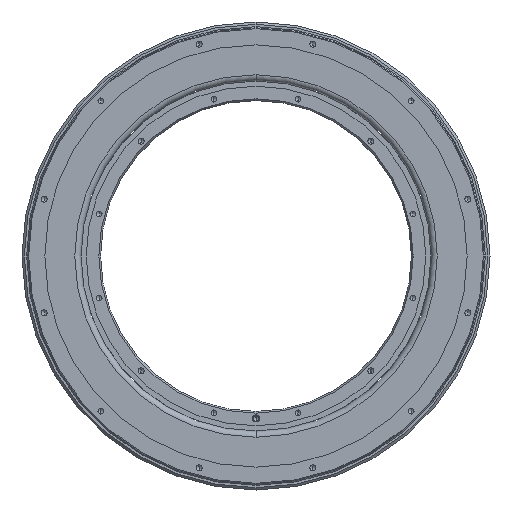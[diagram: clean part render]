
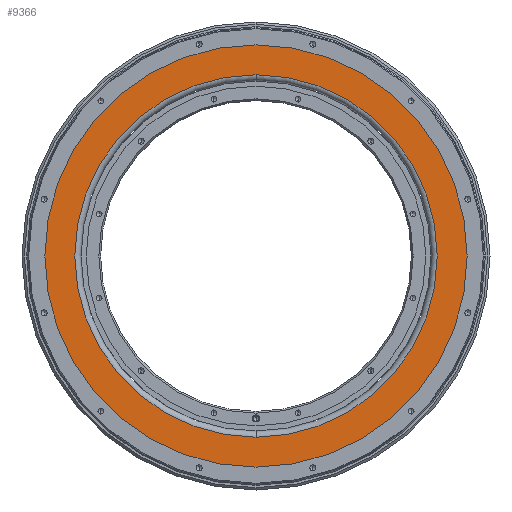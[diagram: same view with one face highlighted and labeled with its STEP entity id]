
A CAD part, front view. The second image highlights one B-rep face of the part: STEP entity #9366.
In plain terms, the highlighted planar face has unit normal (0, -1, 0).
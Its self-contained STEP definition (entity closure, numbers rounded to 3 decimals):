
#32 = FACE_BOUND ( 'NONE', #2355, .T. ) ;
#69 = DIRECTION ( 'NONE',  ( 0., 0., 1. ) ) ;
#97 = AXIS2_PLACEMENT_3D ( 'NONE', #2013, #5652, #3499 ) ;
#119 = DIRECTION ( 'NONE',  ( 0., 1., 0. ) ) ;
#231 = CIRCLE ( 'NONE', #2275, 180. ) ;
#442 = VERTEX_POINT ( 'NONE', #6581 ) ;
#489 = CIRCLE ( 'NONE', #7343, 154.5 ) ;
#635 = CIRCLE ( 'NONE', #9168, 154.5 ) ;
#1372 = EDGE_CURVE ( 'NONE', #4387, #7944, #231, .T. ) ;
#1532 = PLANE ( 'NONE',  #9066 ) ;
#2013 = CARTESIAN_POINT ( 'NONE',  ( 0., 3., 0. ) ) ;
#2275 = AXIS2_PLACEMENT_3D ( 'NONE', #5004, #6399, #7914 ) ;
#2355 = EDGE_LOOP ( 'NONE', ( #5027, #6751 ) ) ;
#2680 = EDGE_CURVE ( 'NONE', #7756, #442, #489, .T. ) ;
#3499 = DIRECTION ( 'NONE',  ( 0., 0., -1. ) ) ;
#3739 = DIRECTION ( 'NONE',  ( 0., 1., 0. ) ) ;
#3807 = CARTESIAN_POINT ( 'NONE',  ( -180., 3., 0. ) ) ;
#4357 = FACE_OUTER_BOUND ( 'NONE', #8912, .T. ) ;
#4387 = VERTEX_POINT ( 'NONE', #6629 ) ;
#4505 = DIRECTION ( 'NONE',  ( 0., 0., 1. ) ) ;
#4682 = CIRCLE ( 'NONE', #97, 180. ) ;
#4870 = CARTESIAN_POINT ( 'NONE',  ( 0., 3., -180. ) ) ;
#5004 = CARTESIAN_POINT ( 'NONE',  ( 0., 3., 0. ) ) ;
#5027 = ORIENTED_EDGE ( 'NONE', *, *, #7056, .T. ) ;
#5108 = CARTESIAN_POINT ( 'NONE',  ( 0., 3., 0. ) ) ;
#5318 = DIRECTION ( 'NONE',  ( 0., 0., 1. ) ) ;
#5438 = ORIENTED_EDGE ( 'NONE', *, *, #1372, .T. ) ;
#5652 = DIRECTION ( 'NONE',  ( 0., -1., 0. ) ) ;
#6399 = DIRECTION ( 'NONE',  ( 0., -1., 0. ) ) ;
#6581 = CARTESIAN_POINT ( 'NONE',  ( 0., 3., 154.5 ) ) ;
#6629 = CARTESIAN_POINT ( 'NONE',  ( 0., 3., 180. ) ) ;
#6751 = ORIENTED_EDGE ( 'NONE', *, *, #2680, .T. ) ;
#7056 = EDGE_CURVE ( 'NONE', #442, #7756, #635, .T. ) ;
#7343 = AXIS2_PLACEMENT_3D ( 'NONE', #8183, #8895, #5318 ) ;
#7494 = CARTESIAN_POINT ( 'NONE',  ( 0., 3., -154.5 ) ) ;
#7600 = ORIENTED_EDGE ( 'NONE', *, *, #9180, .T. ) ;
#7756 = VERTEX_POINT ( 'NONE', #7494 ) ;
#7914 = DIRECTION ( 'NONE',  ( 0., 0., -1. ) ) ;
#7944 = VERTEX_POINT ( 'NONE', #4870 ) ;
#8183 = CARTESIAN_POINT ( 'NONE',  ( 0., 3., 0. ) ) ;
#8895 = DIRECTION ( 'NONE',  ( 0., 1., 0. ) ) ;
#8912 = EDGE_LOOP ( 'NONE', ( #7600, #5438 ) ) ;
#9066 = AXIS2_PLACEMENT_3D ( 'NONE', #3807, #3739, #4505 ) ;
#9168 = AXIS2_PLACEMENT_3D ( 'NONE', #5108, #119, #69 ) ;
#9180 = EDGE_CURVE ( 'NONE', #7944, #4387, #4682, .T. ) ;
#9366 = ADVANCED_FACE ( 'NONE', ( #32, #4357 ), #1532, .F. ) ;
